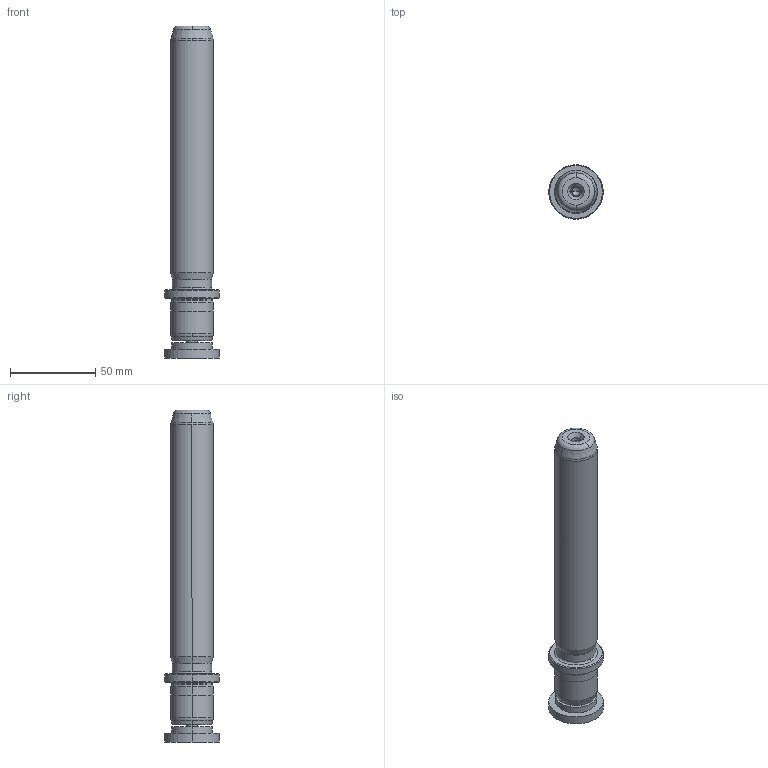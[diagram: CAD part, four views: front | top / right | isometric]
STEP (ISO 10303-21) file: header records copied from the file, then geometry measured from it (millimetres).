
FILE_DESCRIPTION((''),'2;1');
FILE_NAME('P22_025_160.stp','2009-02-02T15:37:22',(''),(''),'Mechanical Desktop 2009','Mechanical Desktop 2009',', , ');
FILE_SCHEMA(('CONFIG_CONTROL_DESIGN'));
Length unit declared in the file: millimetre
Products named in the file (2): Product; blmdl1
Assembly tree (1 placements, depth 2):
  Product
    blmdl1
Bounding box: 32 x 32 x 195 mm (x, y, z)
Volume: 95703.4 mm3; surface area: 19842.4 mm2
Topology: 3 solids, 3 shells, 99 faces, 237 edges, 149 vertices
Faces by surface type: cylinder 32, cone 28, plane 19, torus 10, bspline 10
Entity records: 3419 total; most frequent: CARTESIAN_POINT 923, DIRECTION 570, ORIENTED_EDGE 466, AXIS2_PLACEMENT_3D 246, EDGE_CURVE 233, CIRCLE 155, VERTEX_POINT 149, EDGE_LOOP 110
